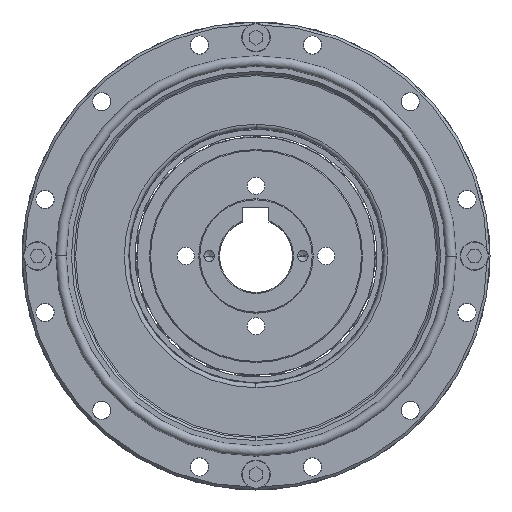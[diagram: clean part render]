
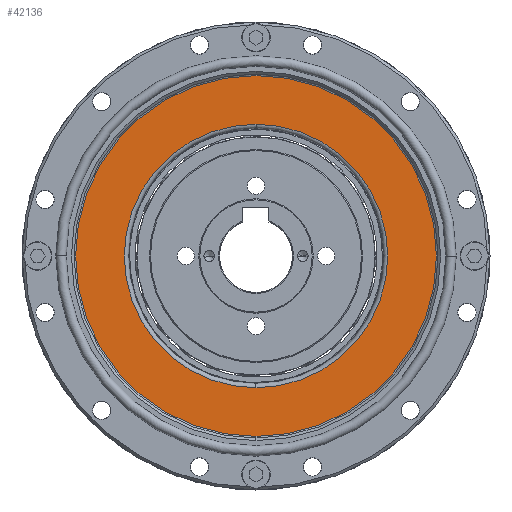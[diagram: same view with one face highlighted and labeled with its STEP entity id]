
A CAD part, left-side view. The second image highlights one B-rep face of the part: STEP entity #42136.
In plain terms, the highlighted planar face has unit normal (-1, 0, 0).
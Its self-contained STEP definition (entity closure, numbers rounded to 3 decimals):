
#574 = VERTEX_POINT ( 'NONE', #3615 ) ;
#1523 = ORIENTED_EDGE ( 'NONE', *, *, #29369, .F. ) ;
#3548 = PLANE ( 'NONE',  #39710 ) ;
#3615 = CARTESIAN_POINT ( 'NONE',  ( -12.25, 0., 34.7 ) ) ;
#4893 = CARTESIAN_POINT ( 'NONE',  ( -12.25, 0., 0. ) ) ;
#4924 = VERTEX_POINT ( 'NONE', #45369 ) ;
#4969 = EDGE_LOOP ( 'NONE', ( #23725, #1523 ) ) ;
#5279 = AXIS2_PLACEMENT_3D ( 'NONE', #4893, #8999, #44405 ) ;
#5472 = CARTESIAN_POINT ( 'NONE',  ( -12.25, 0., -25.335 ) ) ;
#7503 = EDGE_CURVE ( 'NONE', #574, #16260, #24624, .T. ) ;
#8304 = CIRCLE ( 'NONE', #11571, 34.7 ) ;
#8999 = DIRECTION ( 'NONE',  ( -1., 0., 0. ) ) ;
#10518 = VERTEX_POINT ( 'NONE', #5472 ) ;
#11349 = CARTESIAN_POINT ( 'NONE',  ( -12.25, 0., 0. ) ) ;
#11571 = AXIS2_PLACEMENT_3D ( 'NONE', #18671, #45578, #22558 ) ;
#15206 = DIRECTION ( 'NONE',  ( 0., 0., 1. ) ) ;
#15338 = FACE_BOUND ( 'NONE', #4969, .T. ) ;
#15469 = EDGE_CURVE ( 'NONE', #4924, #10518, #34794, .T. ) ;
#16260 = VERTEX_POINT ( 'NONE', #39335 ) ;
#18671 = CARTESIAN_POINT ( 'NONE',  ( -12.25, 0., 0. ) ) ;
#20864 = CARTESIAN_POINT ( 'NONE',  ( -12.25, 0., 0. ) ) ;
#22558 = DIRECTION ( 'NONE',  ( 0., 0., -1. ) ) ;
#22726 = ORIENTED_EDGE ( 'NONE', *, *, #30401, .T. ) ;
#22935 = DIRECTION ( 'NONE',  ( 1., 0., 0. ) ) ;
#23725 = ORIENTED_EDGE ( 'NONE', *, *, #15469, .F. ) ;
#24424 = FACE_OUTER_BOUND ( 'NONE', #48404, .T. ) ;
#24425 = AXIS2_PLACEMENT_3D ( 'NONE', #11349, #38310, #15206 ) ;
#24624 = CIRCLE ( 'NONE', #5279, 34.7 ) ;
#24697 = DIRECTION ( 'NONE',  ( 0., 0., 1. ) ) ;
#29369 = EDGE_CURVE ( 'NONE', #10518, #4924, #45934, .T. ) ;
#30401 = EDGE_CURVE ( 'NONE', #16260, #574, #8304, .T. ) ;
#33166 = AXIS2_PLACEMENT_3D ( 'NONE', #20864, #47736, #24697 ) ;
#34794 = CIRCLE ( 'NONE', #33166, 25.335 ) ;
#38310 = DIRECTION ( 'NONE',  ( -1., 0., 0. ) ) ;
#39335 = CARTESIAN_POINT ( 'NONE',  ( -12.25, 0., -34.7 ) ) ;
#39710 = AXIS2_PLACEMENT_3D ( 'NONE', #45943, #22935, #49810 ) ;
#40292 = ORIENTED_EDGE ( 'NONE', *, *, #7503, .T. ) ;
#42136 = ADVANCED_FACE ( 'NONE', ( #24424, #15338 ), #3548, .F. ) ;
#44405 = DIRECTION ( 'NONE',  ( 0., 0., -1. ) ) ;
#45369 = CARTESIAN_POINT ( 'NONE',  ( -12.25, 0., 25.335 ) ) ;
#45578 = DIRECTION ( 'NONE',  ( -1., 0., 0. ) ) ;
#45934 = CIRCLE ( 'NONE', #24425, 25.335 ) ;
#45943 = CARTESIAN_POINT ( 'NONE',  ( -12.25, 35., 0. ) ) ;
#47736 = DIRECTION ( 'NONE',  ( -1., 0., 0. ) ) ;
#48404 = EDGE_LOOP ( 'NONE', ( #22726, #40292 ) ) ;
#49810 = DIRECTION ( 'NONE',  ( 0., 0., -1. ) ) ;
